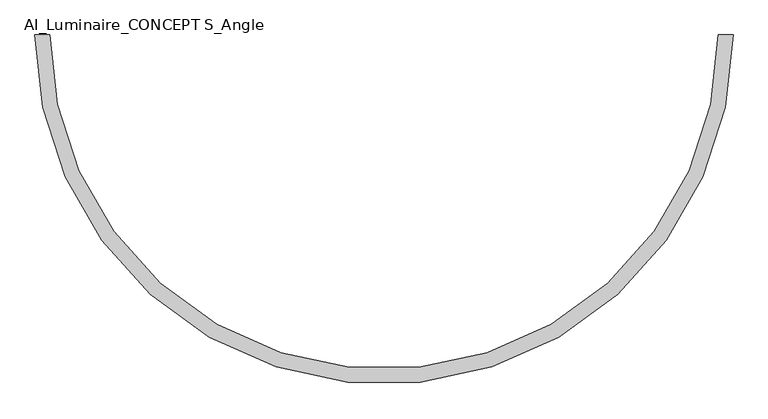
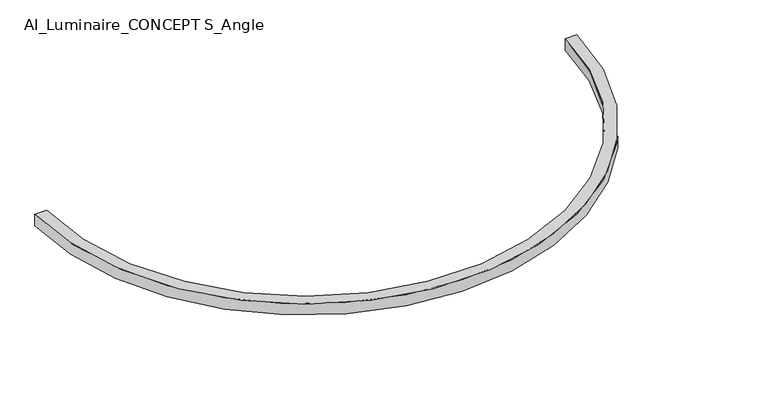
"""IFC4 building model written with IfcOpenShell, lengths in millimetres: light fixture geometry, AI_Luminaire_CONCEPT S_Angle : CONCEPTION S."""

from ifc_helpers import new_model, si_unit, point, frame, frame_2d, origin, place, context, project, spatial, polyline, circle_curve, trimmed, segment, composite_curve, outline, extrude, source, transform, mapped, element, save


def ai_luminaire_concept_s_angle_d93a71be(model_context):
    return source(origin(), model_context, "Body", "SweptSolid", [
        extrude(outline(composite_curve([segment(polyline([(2472.5, 0.0), (2527.5, 0.0)]), True, "CONTINUOUS"), segment(trimmed(circle_curve(frame_2d((1250.0, 0.0)), 1277.5), [point((2527.5, 0.0))], [point((-27.5, 0.0))], False, "CARTESIAN"), True, "CONTINUOUS"), segment(polyline([(-27.5, 0.0), (27.5, 0.0)]), True, "CONTINUOUS"), segment(trimmed(circle_curve(frame_2d((1250.0, 0.0)), 1222.5), [point((27.5, 0.0))], [point((2472.5, 0.0))], True, "CARTESIAN"), True, "CONTINUOUS")], self_intersect=False)), frame((0.0, 0.0, -56.0), z_axis=(0.0, 0.0, 1.0), x_axis=(1.0, 0.0, 0.0)), (0.0, 0.0, 1.0), 56.0),
    ])


if __name__ == "__main__":
    model = new_model("IFC4")
    model_context = context("Model", 3, world=origin())
    ifc_project = project(units=[si_unit("LENGTHUNIT", "METRE", prefix="MILLI")], contexts=[model_context])
    site = spatial("IfcSite", under=ifc_project)
    building = spatial("IfcBuilding", under=site)
    placement = place(None, origin())
    ai_luminaire_concept_s_angle_shape = ai_luminaire_concept_s_angle_d93a71be(model_context)
    element("IfcLightFixture", 1, ObjectType="AI_Luminaire_CONCEPT S_Angle : CONCEPTION S", at=placement, inside=building, context=model_context, shape_type="MappedRepresentation", body=[
        mapped(ai_luminaire_concept_s_angle_shape, transform((0.0, 0.0, 0.0), x_axis=(1.0, 0.0, 0.0), y_axis=(0.0, 1.0, 0.0), z_axis=(0.0, 0.0, 1.0))),
    ])
    save(model, "model.ifc")
